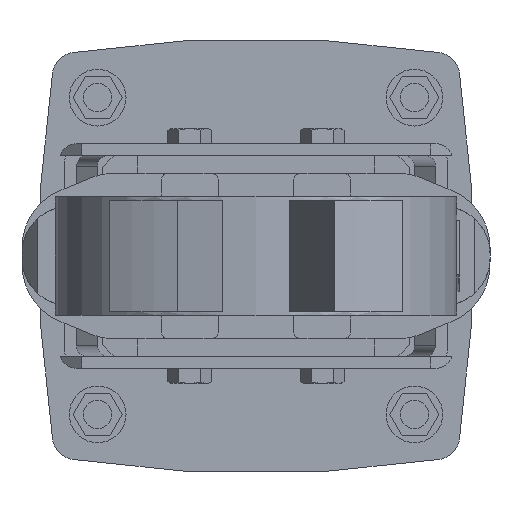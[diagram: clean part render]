
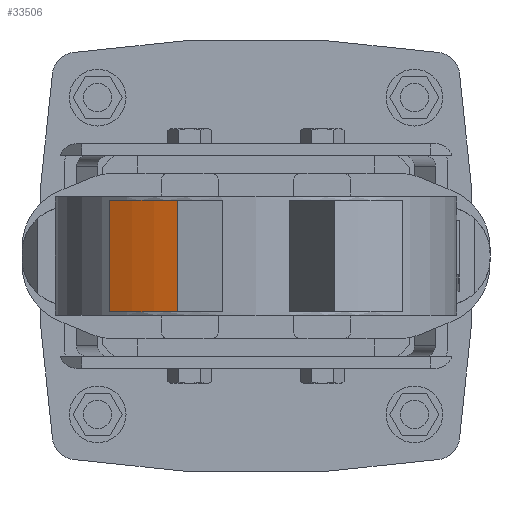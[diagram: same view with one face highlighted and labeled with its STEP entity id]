
A CAD part, front view. The second image highlights one B-rep face of the part: STEP entity #33506.
In plain terms, the highlighted cylindrical face has radius 125 mm (diameter 250 mm), a partial arc.
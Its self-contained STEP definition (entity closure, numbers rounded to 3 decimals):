
#22263 = CARTESIAN_POINT ( 'NONE',  ( -61.786, -108.662, 23.5 ) ) ;
#22264 = CARTESIAN_POINT ( 'NONE',  ( -33.146, -120.525, 23.5 ) ) ;
#22265 = DIRECTION ( 'NONE',  ( 1., 0., 0. ) ) ;
#22266 = DIRECTION ( 'NONE',  ( 0., 0., -1. ) ) ;
#22267 = AXIS2_PLACEMENT_3D ( 'NONE', #22272, #22266, #22265 ) ;
#22268 = CIRCLE ( 'NONE', #22267, 125. ) ;
#22272 = CARTESIAN_POINT ( 'NONE',  ( 0., 0., 23.5 ) ) ;
#22307 = CARTESIAN_POINT ( 'NONE',  ( -61.786, -108.662, -23.5 ) ) ;
#22308 = CARTESIAN_POINT ( 'NONE',  ( -33.146, -120.525, -23.5 ) ) ;
#22309 = DIRECTION ( 'NONE',  ( 1., 0., 0. ) ) ;
#22310 = DIRECTION ( 'NONE',  ( 0., 0., -1. ) ) ;
#22311 = CARTESIAN_POINT ( 'NONE',  ( 0., 0., -23.5 ) ) ;
#22312 = AXIS2_PLACEMENT_3D ( 'NONE', #22311, #22310, #22309 ) ;
#22313 = CIRCLE ( 'NONE', #22312, 125. ) ;
#22870 = DIRECTION ( 'NONE',  ( 0., 0., -1. ) ) ;
#22871 = VECTOR ( 'NONE', #22870, 1000. ) ;
#22872 = CARTESIAN_POINT ( 'NONE',  ( -61.786, -108.662, 23.5 ) ) ;
#22873 = LINE ( 'NONE', #22872, #22871 ) ;
#22874 = DIRECTION ( 'NONE',  ( 0., 0., -1. ) ) ;
#22875 = VECTOR ( 'NONE', #22874, 1000. ) ;
#22876 = CARTESIAN_POINT ( 'NONE',  ( -33.146, -120.525, 23.5 ) ) ;
#22877 = LINE ( 'NONE', #22876, #22875 ) ;
#22914 = DIRECTION ( 'NONE',  ( -1., 0., 0. ) ) ;
#22915 = DIRECTION ( 'NONE',  ( 0., 0., -1. ) ) ;
#22916 = AXIS2_PLACEMENT_3D ( 'NONE', #22918, #22915, #22914 ) ;
#22918 = CARTESIAN_POINT ( 'NONE',  ( 0., 0., 23.5 ) ) ;
#22919 = CYLINDRICAL_SURFACE ( 'NONE', #22916, 125. ) ;
#22924 = FACE_OUTER_BOUND ( 'NONE', #33428, .T. ) ;
#33115 = EDGE_CURVE ( 'NONE', #33116, #33117, #22268, .T. ) ;
#33116 = VERTEX_POINT ( 'NONE', #22264 ) ;
#33117 = VERTEX_POINT ( 'NONE', #22263 ) ;
#33127 = EDGE_CURVE ( 'NONE', #33128, #33129, #22313, .T. ) ;
#33128 = VERTEX_POINT ( 'NONE', #22308 ) ;
#33129 = VERTEX_POINT ( 'NONE', #22307 ) ;
#33428 = EDGE_LOOP ( 'NONE', ( #33429, #33486, #33488, #33489 ) ) ;
#33429 = ORIENTED_EDGE ( 'NONE', *, *, #33127, .F. ) ;
#33486 = ORIENTED_EDGE ( 'NONE', *, *, #33487, .F. ) ;
#33487 = EDGE_CURVE ( 'NONE', #33116, #33128, #22877, .T. ) ;
#33488 = ORIENTED_EDGE ( 'NONE', *, *, #33115, .T. ) ;
#33489 = ORIENTED_EDGE ( 'NONE', *, *, #33490, .T. ) ;
#33490 = EDGE_CURVE ( 'NONE', #33117, #33129, #22873, .T. ) ;
#33506 = ADVANCED_FACE ( 'NONE', ( #22924 ), #22919, .T. ) ;
